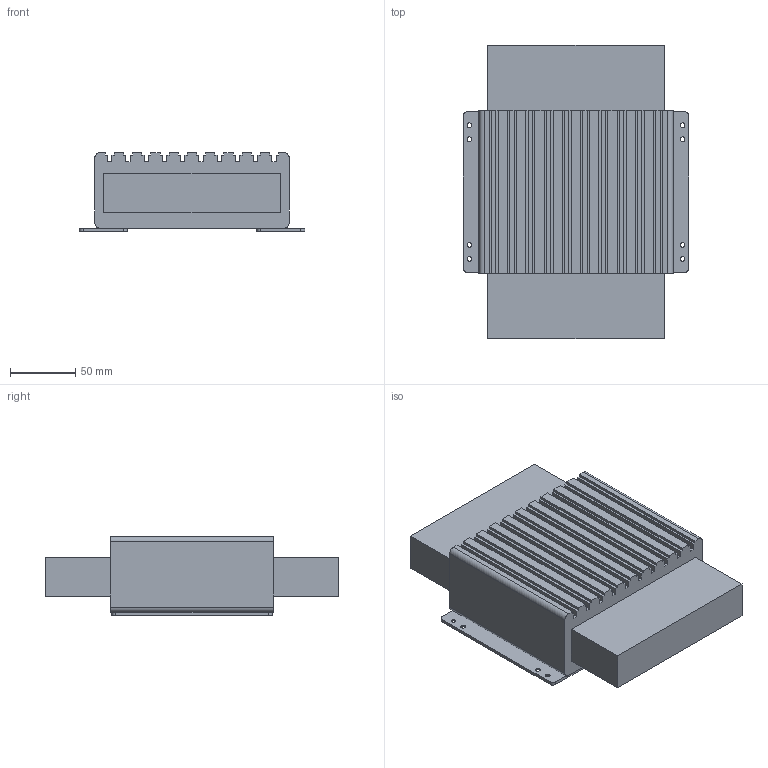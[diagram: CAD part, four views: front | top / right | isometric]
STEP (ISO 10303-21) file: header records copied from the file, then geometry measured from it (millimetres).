
FILE_DESCRIPTION(/* description */ ('Unknown'),/* implementation_level */ '2;1');
FILE_NAME(/* name */ 'Montaje-eRX CL-J1900 IGN',/* time_stamp */ '2022-05-20T13:05:43+02:00',/* author */ ('Unknown'),/* organization */ ('Unknown'),/* preprocessor_version */ 'ST-DEVELOPER v18.1',/* originating_system */ 'Solid Edge',/* authorisation */ 'Unknown');
FILE_SCHEMA (('AUTOMOTIVE_DESIGN {1 0 10303 214 3 1 1}'));
Length unit declared in the file: millimetre
Products named in the file (3): Montaje-eRX CL-J1900 IGN; eRX CL-J1900 IGN; Pletina eRX CL-J1900 IGN
Assembly tree (3 placements, depth 2):
  Montaje-eRX CL-J1900 IGN
    eRX CL-J1900 IGN
    Pletina eRX CL-J1900 IGN  x2
Bounding box: 173.1 x 225 x 60.4 mm (x, y, z)
Volume: 1465138.8 mm3; surface area: 139389.6 mm2
Topology: 3 solids, 3 shells, 184 faces, 516 edges, 348 vertices
Faces by surface type: plane 132, cylinder 44, cone 8
Full cylindrical faces by diameter (mm): 3 x8, 3.6 x8
Entity records: 5511 total; most frequent: CARTESIAN_POINT 810, ORIENTED_EDGE 776, DIRECTION 756, EDGE_CURVE 388, LINE 328, VECTOR 328, VERTEX_POINT 268, AXIS2_PLACEMENT_3D 214
